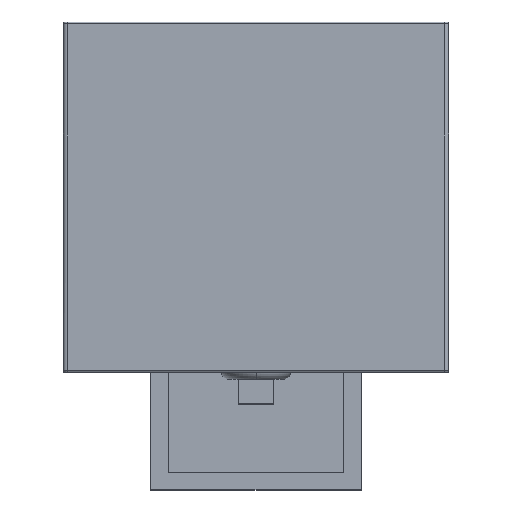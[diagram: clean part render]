
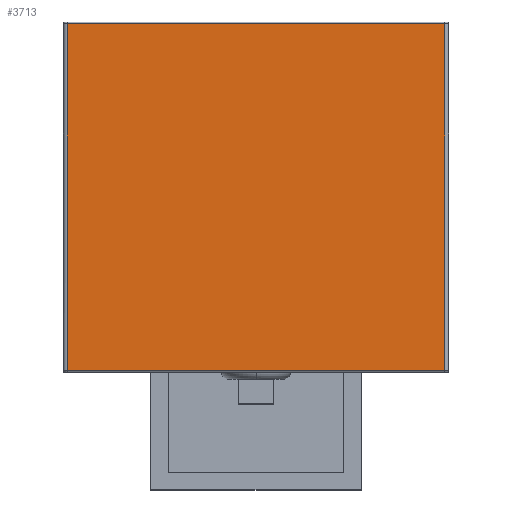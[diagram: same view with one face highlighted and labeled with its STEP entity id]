
A CAD part, top view. The second image highlights one B-rep face of the part: STEP entity #3713.
In plain terms, the highlighted planar face has unit normal (0, 0, 1) as drawn and (0, 1, 0) by its records, which use the part's own axes.
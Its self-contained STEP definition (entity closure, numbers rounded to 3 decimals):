
#635=FACE_OUTER_BOUND('',#882,.T.);
#882=EDGE_LOOP('',(#3301,#3302,#3303,#3304));
#1179=LINE('',#9011,#1476);
#1181=LINE('',#9071,#1478);
#1182=LINE('',#9073,#1479);
#1183=LINE('',#9074,#1480);
#1476=VECTOR('',#5114,304.8);
#1478=VECTOR('',#5128,304.8);
#1479=VECTOR('',#5129,304.8);
#1480=VECTOR('',#5130,304.8);
#1772=VERTEX_POINT('',#9004);
#1773=VERTEX_POINT('',#9010);
#1776=VERTEX_POINT('',#9070);
#1777=VERTEX_POINT('',#9072);
#2284=EDGE_CURVE('',#1773,#1772,#1179,.T.);
#2291=EDGE_CURVE('',#1773,#1776,#1181,.T.);
#2292=EDGE_CURVE('',#1777,#1772,#1182,.T.);
#2293=EDGE_CURVE('',#1776,#1777,#1183,.T.);
#3301=ORIENTED_EDGE('',*,*,#2291,.F.);
#3302=ORIENTED_EDGE('',*,*,#2284,.T.);
#3303=ORIENTED_EDGE('',*,*,#2292,.F.);
#3304=ORIENTED_EDGE('',*,*,#2293,.F.);
#3482=PLANE('',#4097);
#3713=ADVANCED_FACE('',(#635),#3482,.F.);
#4097=AXIS2_PLACEMENT_3D('',#9069,#5126,#5127);
#5114=DIRECTION('',(0.,0.,-1.));
#5126=DIRECTION('center_axis',(0.,-1.,0.));
#5127=DIRECTION('ref_axis',(1.,0.,0.));
#5128=DIRECTION('',(-1.,0.,0.));
#5129=DIRECTION('',(1.,0.,0.));
#5130=DIRECTION('',(0.,0.,-1.));
#9004=CARTESIAN_POINT('',(107.893,55.,1.));
#9010=CARTESIAN_POINT('',(107.893,55.,199.));
#9011=CARTESIAN_POINT('',(107.893,55.,199.));
#9069=CARTESIAN_POINT('Origin',(-107.893,55.,1.));
#9070=CARTESIAN_POINT('',(-107.893,55.,199.));
#9071=CARTESIAN_POINT('',(107.893,55.,199.));
#9072=CARTESIAN_POINT('',(-107.893,55.,1.));
#9073=CARTESIAN_POINT('',(-107.893,55.,1.));
#9074=CARTESIAN_POINT('',(-107.893,55.,199.));
